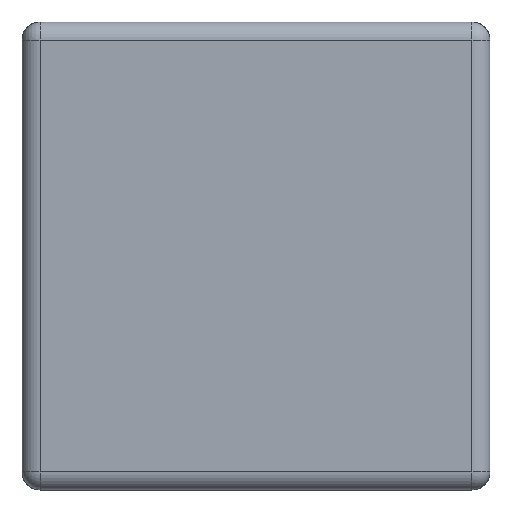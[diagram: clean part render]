
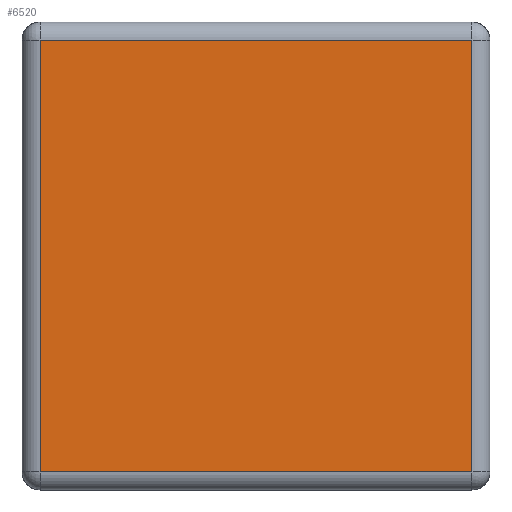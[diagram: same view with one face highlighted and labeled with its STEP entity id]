
A CAD part, left-side view. The second image highlights one B-rep face of the part: STEP entity #6520.
In plain terms, the highlighted planar face has unit normal (-1, 0, 0).
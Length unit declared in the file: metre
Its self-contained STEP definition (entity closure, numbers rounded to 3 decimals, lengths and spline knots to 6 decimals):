
#509=LINE('',#11902,#1026);
#512=LINE('',#11920,#1029);
#513=LINE('',#11925,#1030);
#516=LINE('',#11937,#1033);
#1026=VECTOR('',#9322,1.);
#1029=VECTOR('',#9343,1.);
#1030=VECTOR('',#9348,1.);
#1033=VECTOR('',#9365,1.);
#2803=ORIENTED_EDGE('',*,*,#4124,.T.);
#2804=ORIENTED_EDGE('',*,*,#4115,.T.);
#2805=ORIENTED_EDGE('',*,*,#4126,.T.);
#2806=ORIENTED_EDGE('',*,*,#4133,.T.);
#4115=EDGE_CURVE('',#4800,#4799,#509,.T.);
#4124=EDGE_CURVE('',#4804,#4800,#512,.T.);
#4126=EDGE_CURVE('',#4799,#4807,#513,.T.);
#4133=EDGE_CURVE('',#4807,#4804,#516,.T.);
#4799=VERTEX_POINT('',#11901);
#4800=VERTEX_POINT('',#11903);
#4804=VERTEX_POINT('',#11917);
#4807=VERTEX_POINT('',#11924);
#5458=EDGE_LOOP('',(#2803,#2804,#2805,#2806));
#5847=FACE_BOUND('',#5458,.T.);
#6096=PLANE('',#7680);
#6520=ADVANCED_FACE('',(#5847),#6096,.T.);
#7680=AXIS2_PLACEMENT_3D('',#11938,#9366,#9367);
#9322=DIRECTION('',(0.,0.,-1.));
#9343=DIRECTION('',(0.,1.,0.));
#9348=DIRECTION('',(0.,-1.,0.));
#9365=DIRECTION('',(0.,0.,1.));
#9366=DIRECTION('',(-1.,0.,0.));
#9367=DIRECTION('',(0.,0.,-1.));
#11901=CARTESIAN_POINT('',(-0.087706,-0.018942,0.009575));
#11902=CARTESIAN_POINT('',(-0.087706,-0.018942,0.0095));
#11903=CARTESIAN_POINT('',(-0.087706,-0.018942,0.011384));
#11917=CARTESIAN_POINT('',(-0.087706,-0.020751,0.011384));
#11920=CARTESIAN_POINT('',(-0.087706,-0.018867,0.011384));
#11924=CARTESIAN_POINT('',(-0.087706,-0.020751,0.009575));
#11925=CARTESIAN_POINT('',(-0.087706,-0.020826,0.009575));
#11937=CARTESIAN_POINT('',(-0.087706,-0.020751,0.01146));
#11938=CARTESIAN_POINT('',(-0.087706,-0.019846,0.01048));
